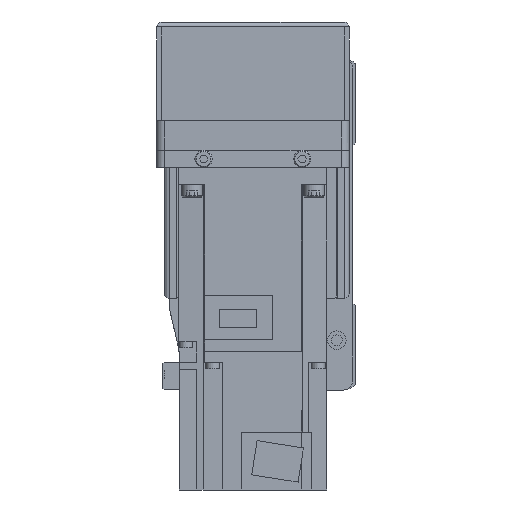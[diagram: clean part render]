
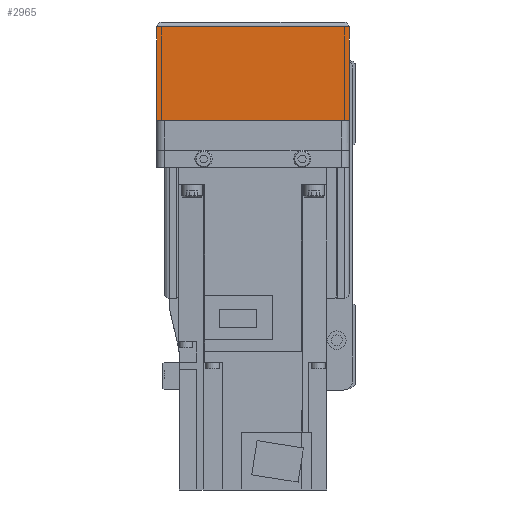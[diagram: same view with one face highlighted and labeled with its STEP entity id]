
A CAD part, left-side view. The second image highlights one B-rep face of the part: STEP entity #2965.
In plain terms, the highlighted planar face has unit normal (-1, 0, 0).
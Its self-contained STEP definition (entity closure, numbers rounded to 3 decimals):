
#2965 = ADVANCED_FACE( '', ( #6236 ), #6237, .F. );
#6236 = FACE_OUTER_BOUND( '', #9667, .T. );
#6237 = PLANE( '', #9668 );
#9667 = EDGE_LOOP( '', ( #17960, #17961, #17962, #17963 ) );
#9668 = AXIS2_PLACEMENT_3D( '', #17964, #17965, #17966 );
#17960 = ORIENTED_EDGE( '', *, *, #22565, .F. );
#17961 = ORIENTED_EDGE( '', *, *, #21619, .F. );
#17962 = ORIENTED_EDGE( '', *, *, #21696, .T. );
#17963 = ORIENTED_EDGE( '', *, *, #21526, .F. );
#17964 = CARTESIAN_POINT( '', ( -158., 36., 7. ) );
#17965 = DIRECTION( '', ( 1., 0., 0. ) );
#17966 = DIRECTION( '', ( 0., 0., -1. ) );
#21526 = EDGE_CURVE( '', #26495, #25030, #26497, .T. );
#21619 = EDGE_CURVE( '', #25231, #26615, #26616, .T. );
#21696 = EDGE_CURVE( '', #25231, #25030, #26724, .T. );
#22565 = EDGE_CURVE( '', #26615, #26495, #27790, .T. );
#25030 = VERTEX_POINT( '', #31459 );
#25231 = VERTEX_POINT( '', #31735 );
#26495 = VERTEX_POINT( '', #33650 );
#26497 = LINE( '', #33653, #33654 );
#26615 = VERTEX_POINT( '', #33842 );
#26616 = LINE( '', #33843, #33844 );
#26724 = LINE( '', #34017, #34018 );
#27790 = LINE( '', #35720, #35721 );
#31459 = CARTESIAN_POINT( '', ( -158., -39., -50. ) );
#31735 = CARTESIAN_POINT( '', ( -158., 39., -50. ) );
#33650 = CARTESIAN_POINT( '', ( -158., -39., -12.1 ) );
#33653 = CARTESIAN_POINT( '', ( -158., -39., -12.1 ) );
#33654 = VECTOR( '', #38918, 1000. );
#33842 = CARTESIAN_POINT( '', ( -158., 39., -12.1 ) );
#33843 = CARTESIAN_POINT( '', ( -158., 39., -50. ) );
#33844 = VECTOR( '', #39006, 1000. );
#34017 = CARTESIAN_POINT( '', ( -158., 40., -50. ) );
#34018 = VECTOR( '', #39090, 1000. );
#35720 = CARTESIAN_POINT( '', ( -158., 50., -12.1 ) );
#35721 = VECTOR( '', #39894, 1000. );
#38918 = DIRECTION( '', ( 0., 0., -1. ) );
#39006 = DIRECTION( '', ( 0., 0., 1. ) );
#39090 = DIRECTION( '', ( 0., -1., 0. ) );
#39894 = DIRECTION( '', ( 0., -1., 0. ) );
